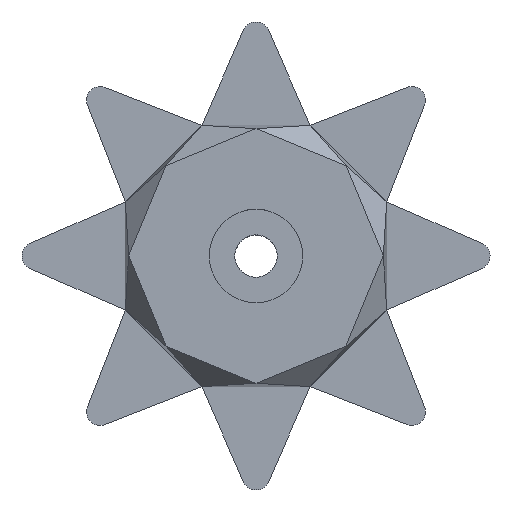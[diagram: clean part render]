
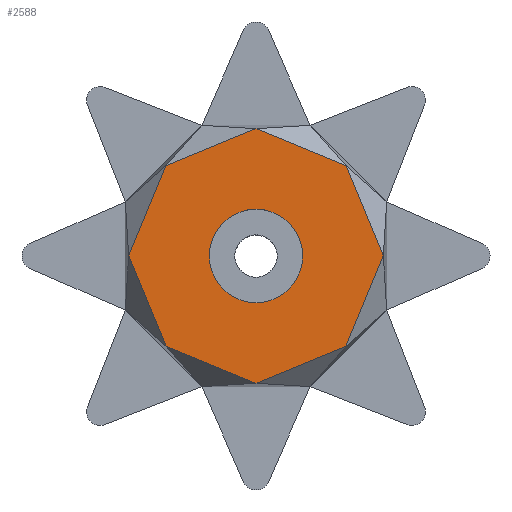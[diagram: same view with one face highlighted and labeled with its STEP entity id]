
A CAD part, top view. The second image highlights one B-rep face of the part: STEP entity #2588.
In plain terms, the highlighted planar face has unit normal (0, 0, 1).
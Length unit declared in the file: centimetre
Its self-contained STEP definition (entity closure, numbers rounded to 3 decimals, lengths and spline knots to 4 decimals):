
#92=LINE('',#3656,#320);
#93=LINE('',#3658,#321);
#94=LINE('',#3660,#322);
#95=LINE('',#3662,#323);
#96=LINE('',#3664,#324);
#97=LINE('',#3666,#325);
#98=LINE('',#3668,#326);
#99=LINE('',#3669,#327);
#320=VECTOR('',#3008,0.6888);
#321=VECTOR('',#3009,0.6888);
#322=VECTOR('',#3010,0.6888);
#323=VECTOR('',#3011,0.6888);
#324=VECTOR('',#3012,0.6888);
#325=VECTOR('',#3013,0.6888);
#326=VECTOR('',#3014,0.6888);
#327=VECTOR('',#3015,0.6888);
#678=FACE_BOUND('',#882,.T.);
#684=FACE_OUTER_BOUND('',#881,.T.);
#881=EDGE_LOOP('',(#1720,#1721,#1722,#1723,#1724,#1725,#1726,#1727));
#882=EDGE_LOOP('',(#1728));
#1071=CIRCLE('',#2781,0.33);
#1100=VERTEX_POINT('',#3551);
#1128=VERTEX_POINT('',#3654);
#1129=VERTEX_POINT('',#3655);
#1130=VERTEX_POINT('',#3657);
#1131=VERTEX_POINT('',#3659);
#1132=VERTEX_POINT('',#3661);
#1133=VERTEX_POINT('',#3663);
#1134=VERTEX_POINT('',#3665);
#1135=VERTEX_POINT('',#3667);
#1301=EDGE_CURVE('',#1100,#1100,#1071,.T.);
#1329=EDGE_CURVE('',#1128,#1129,#92,.T.);
#1330=EDGE_CURVE('',#1129,#1130,#93,.T.);
#1331=EDGE_CURVE('',#1130,#1131,#94,.T.);
#1332=EDGE_CURVE('',#1131,#1132,#95,.T.);
#1333=EDGE_CURVE('',#1132,#1133,#96,.T.);
#1334=EDGE_CURVE('',#1133,#1134,#97,.T.);
#1335=EDGE_CURVE('',#1134,#1135,#98,.T.);
#1336=EDGE_CURVE('',#1135,#1128,#99,.T.);
#1720=ORIENTED_EDGE('',*,*,#1329,.T.);
#1721=ORIENTED_EDGE('',*,*,#1330,.T.);
#1722=ORIENTED_EDGE('',*,*,#1331,.T.);
#1723=ORIENTED_EDGE('',*,*,#1332,.T.);
#1724=ORIENTED_EDGE('',*,*,#1333,.T.);
#1725=ORIENTED_EDGE('',*,*,#1334,.T.);
#1726=ORIENTED_EDGE('',*,*,#1335,.T.);
#1727=ORIENTED_EDGE('',*,*,#1336,.T.);
#1728=ORIENTED_EDGE('',*,*,#1301,.T.);
#2462=PLANE('',#2793);
#2588=ADVANCED_FACE('',(#684,#678),#2462,.T.);
#2781=AXIS2_PLACEMENT_3D('',#3552,#2966,#2967);
#2793=AXIS2_PLACEMENT_3D('',#3653,#3006,#3007);
#2966=DIRECTION('center_axis',(0.,0.,
-1.));
#2967=DIRECTION('ref_axis',(1.,0.,0.));
#3006=DIRECTION('center_axis',(0.,0.,
1.));
#3007=DIRECTION('ref_axis',(1.,0.,0.));
#3008=DIRECTION('',(-0.924,-0.383,0.));
#3009=DIRECTION('',(-0.383,-0.924,0.));
#3010=DIRECTION('',(0.383,-0.924,0.));
#3011=DIRECTION('',(0.924,-0.383,0.));
#3012=DIRECTION('',(0.924,0.383,0.));
#3013=DIRECTION('',(0.383,0.924,0.));
#3014=DIRECTION('',(-0.383,0.924,0.));
#3015=DIRECTION('',(-0.924,0.383,0.));
#3551=CARTESIAN_POINT('',(0.33,0.,4.3));
#3552=CARTESIAN_POINT('Origin',(0.,0.,
4.3));
#3653=CARTESIAN_POINT('Origin',(0.,0.,
4.3));
#3654=CARTESIAN_POINT('',(0.,0.9,4.3));
#3655=CARTESIAN_POINT('',(-0.6364,0.6364,4.3));
#3656=CARTESIAN_POINT('',(0.,0.9,4.3));
#3657=CARTESIAN_POINT('',(-0.9,0.,4.3));
#3658=CARTESIAN_POINT('',(-0.6364,0.6364,4.3));
#3659=CARTESIAN_POINT('',(-0.6364,-0.6364,4.3));
#3660=CARTESIAN_POINT('',(-0.9,0.,4.3));
#3661=CARTESIAN_POINT('',(0.,-0.9,4.3));
#3662=CARTESIAN_POINT('',(-0.6364,-0.6364,4.3));
#3663=CARTESIAN_POINT('',(0.6364,-0.6364,4.3));
#3664=CARTESIAN_POINT('',(0.,-0.9,4.3));
#3665=CARTESIAN_POINT('',(0.9,0.,4.3));
#3666=CARTESIAN_POINT('',(0.6364,-0.6364,4.3));
#3667=CARTESIAN_POINT('',(0.6364,0.6364,4.3));
#3668=CARTESIAN_POINT('',(0.9,0.,4.3));
#3669=CARTESIAN_POINT('',(0.6364,0.6364,4.3));
